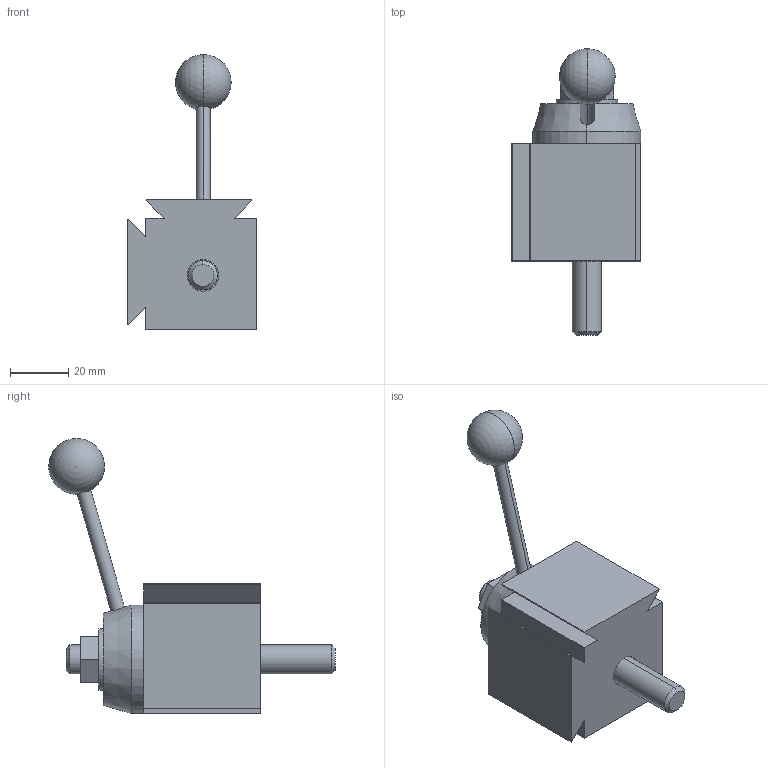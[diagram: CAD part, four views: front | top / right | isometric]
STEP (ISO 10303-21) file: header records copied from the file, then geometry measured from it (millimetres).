
FILE_DESCRIPTION (( 'STEP AP214' ), '1' );
FILE_NAME ('31050 OXA TOOL POST.STEP', '2016-05-26T20:03:04', ( '' ), ( '' ), 'SwSTEP 2.0', 'SolidWorks 2014', '' );
FILE_SCHEMA (( 'AUTOMOTIVE_DESIGN' ));
Length unit declared in the file: inch
Products named in the file (1): 31050 OXA TOOL POST
Bounding box: 44.45 x 97.9 x 93.98 mm (x, y, z)
Volume: 94573.1 mm3; surface area: 21074.5 mm2
Topology: 1 solids, 1 shells, 219 faces, 563 edges, 371 vertices
Faces by surface type: plane 115, bspline 74, cylinder 20, cone 6, sphere 2, torus 2
Entity records: 13373 total; most frequent: CARTESIAN_POINT 6548, ORIENTED_EDGE 1116, DIRECTION 749, EDGE_CURVE 558, VERTEX_POINT 368, VECTOR 355, LINE 355, EDGE_LOOP 246
